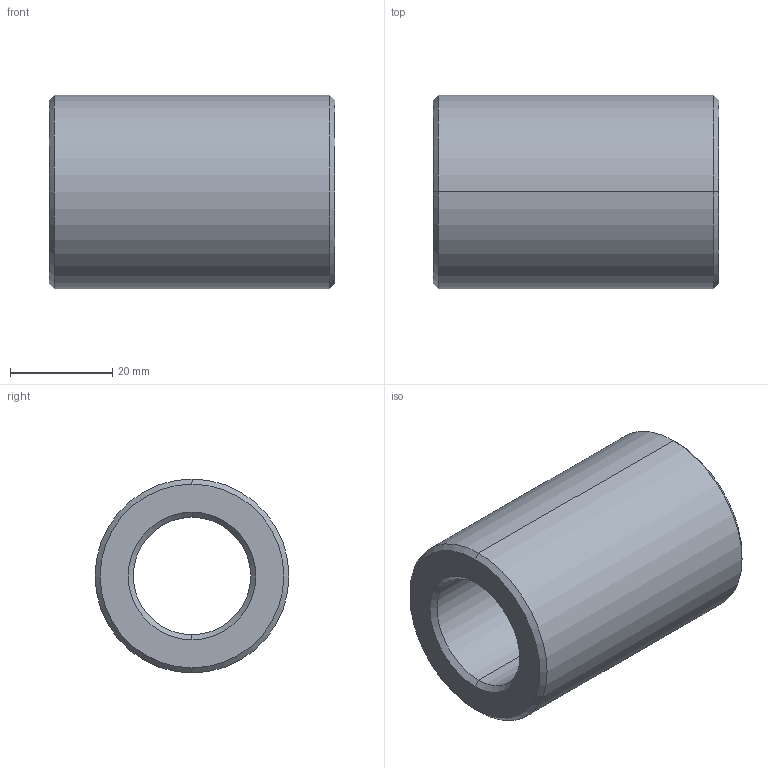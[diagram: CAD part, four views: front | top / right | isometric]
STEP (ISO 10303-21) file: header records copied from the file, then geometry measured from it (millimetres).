
FILE_DESCRIPTION (( 'STEP AP203' ), '1' );
FILE_NAME ('Muffe M24.STEP', '2018-02-22T09:21:03', ( 'install' ), ( 'Hewlett-Packard Company' ), 'SwSTEP 2.0', 'SolidWorks 2017', '' );
FILE_SCHEMA (( 'CONFIG_CONTROL_DESIGN' ));
Length unit declared in the file: millimetre
Products named in the file (1): Muffe M24
Bounding box: 56 x 38 x 38 mm (x, y, z)
Volume: 40052.2 mm3; surface area: 11944.4 mm2
Topology: 1 solids, 1 shells, 14 faces, 28 edges, 16 vertices
Faces by surface type: cone 8, cylinder 4, plane 2
Entity records: 445 total; most frequent: DIRECTION 74, CARTESIAN_POINT 59, ORIENTED_EDGE 56, AXIS2_PLACEMENT_3D 31, EDGE_CURVE 28, CIRCLE 16, VERTEX_POINT 16, EDGE_LOOP 16
